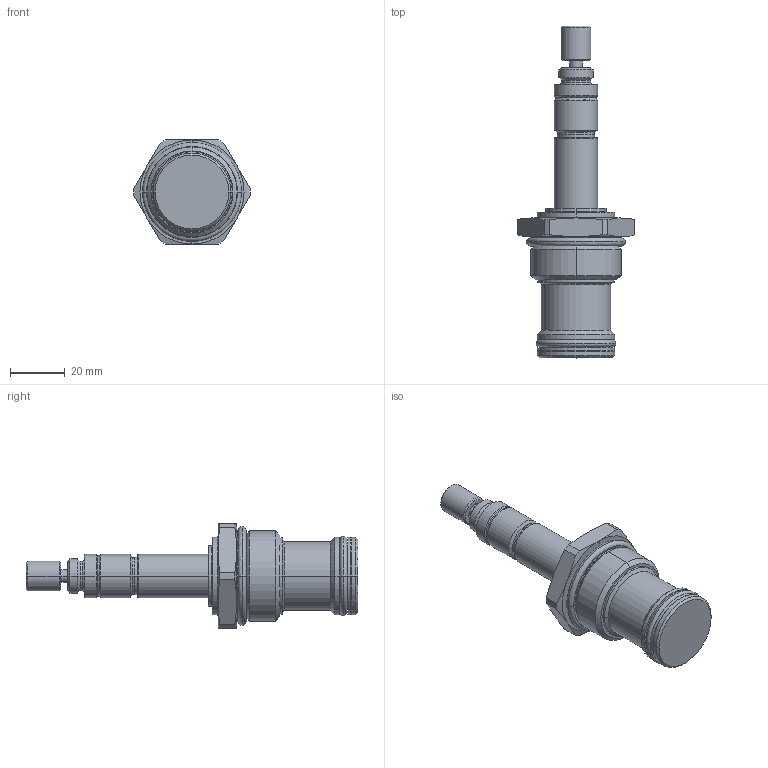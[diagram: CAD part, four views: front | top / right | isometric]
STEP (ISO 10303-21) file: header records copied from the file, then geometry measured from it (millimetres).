
FILE_DESCRIPTION((''),'2;1');
FILE_NAME('5069006_SW0001','2009-03-03T',('JCS'),(''),'PRO/ENGINEER BY PARAMETRIC TECHNOLOGY CORPORATION, 2008010','PRO/ENGINEER BY PARAMETRIC TECHNOLOGY CORPORATION, 2008010','');
FILE_SCHEMA(('CONFIG_CONTROL_DESIGN'));
Length unit declared in the file: inch
Products named in the file (1): 5069006_SW0001
Bounding box: 42.66 x 121.44 x 38.1 mm (x, y, z)
Volume: 50148.4 mm3; surface area: 13459.8 mm2
Topology: 3 solids, 4 shells, 162 faces, 336 edges, 187 vertices
Faces by surface type: cone 62, cylinder 48, plane 20, torus 16, revolution 16
Entity records: 4740 total; most frequent: CARTESIAN_POINT 1233, DIRECTION 790, ORIENTED_EDGE 668, AXIS2_PLACEMENT_3D 336, EDGE_CURVE 334, CIRCLE 190, VERTEX_POINT 187, EDGE_LOOP 173
